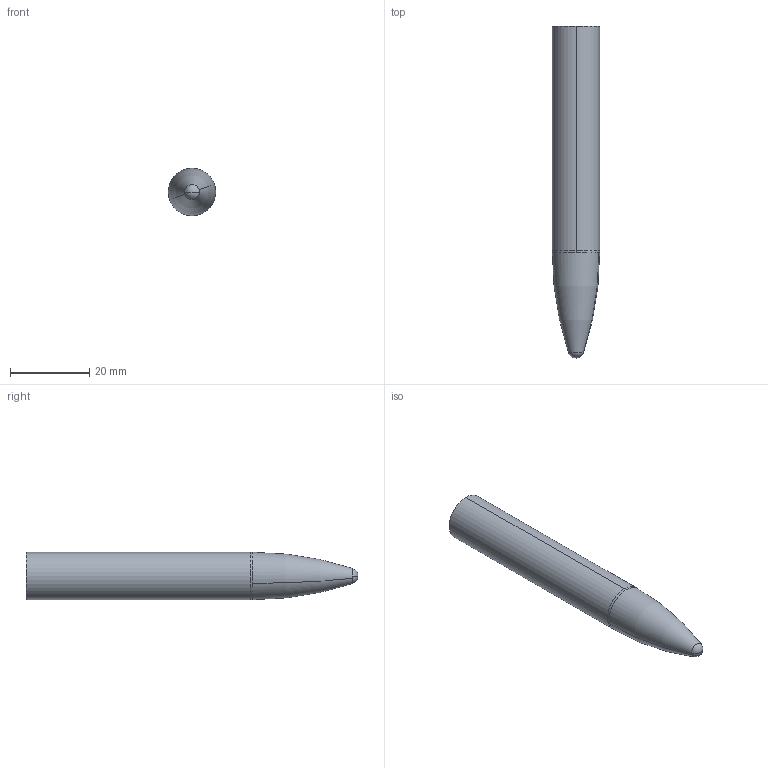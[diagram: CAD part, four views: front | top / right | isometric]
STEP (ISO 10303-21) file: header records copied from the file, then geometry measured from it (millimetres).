
FILE_DESCRIPTION((' '),'2;1');
FILE_NAME( '12MM X R80MM OVAL.stp', '2023-03-22T15:23:50', (' '), ('--- Datakit www.datakit.com---'), ' Datakit CrossCadWare V2022.2 Mar 12 2022', 'Mastercam 2023', ' ');
FILE_SCHEMA(('AUTOMOTIVE_DESIGN { 1 0 10303 214 1 1 1 1 }'));
Length unit declared in the file: inch
Products named in the file (1): 12MM X R80MM OVAL
Bounding box: 12 x 84 x 12 mm (x, y, z)
Volume: 8327.9 mm3; surface area: 3040.2 mm2
Topology: 1 solids, 1 shells, 9 faces, 23 edges, 14 vertices
Faces by surface type: cylinder 4, sphere 2, torus 2, plane 1
Entity records: 296 total; most frequent: DIRECTION 58, CARTESIAN_POINT 45, ORIENTED_EDGE 42, AXIS2_PLACEMENT_3D 27, EDGE_CURVE 21, CIRCLE 17, VERTEX_POINT 14, EDGE_LOOP 9
